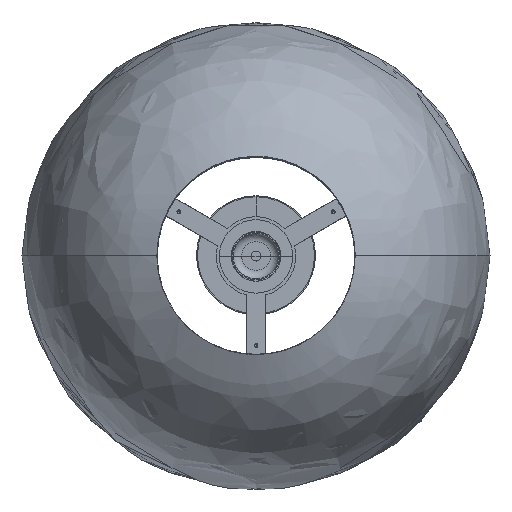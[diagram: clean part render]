
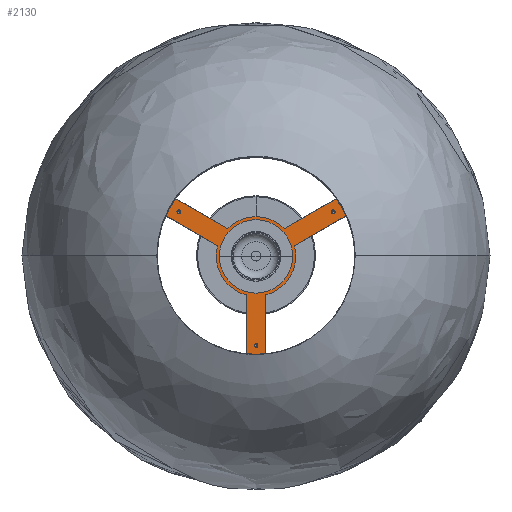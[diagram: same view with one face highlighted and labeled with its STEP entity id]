
A CAD part, top view. The second image highlights one B-rep face of the part: STEP entity #2130.
In plain terms, the highlighted planar face has unit normal (0, 0, 1).
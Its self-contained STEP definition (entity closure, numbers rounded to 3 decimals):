
#43=FACE_BOUND('',#408,.T.);
#44=FACE_BOUND('',#409,.T.);
#45=FACE_BOUND('',#410,.T.);
#46=FACE_BOUND('',#411,.T.);
#149=PLANE('',#2357);
#267=FACE_OUTER_BOUND('',#407,.T.);
#407=EDGE_LOOP('',(#1819,#1820,#1821,#1822,#1823,#1824,#1825,#1826,#1827,
#1828,#1829,#1830,#1831,#1832));
#408=EDGE_LOOP('',(#1833,#1834));
#409=EDGE_LOOP('',(#1835,#1836));
#410=EDGE_LOOP('',(#1837,#1838));
#411=EDGE_LOOP('',(#1839,#1840));
#540=LINE('',#7476,#705);
#543=LINE('',#7481,#708);
#548=LINE('',#7490,#713);
#556=LINE('',#7513,#721);
#559=LINE('',#7522,#724);
#565=LINE('',#7532,#730);
#582=LINE('',#7605,#747);
#585=LINE('',#7609,#750);
#586=LINE('',#7610,#751);
#705=VECTOR('',#2793,304.8);
#708=VECTOR('',#2798,304.8);
#713=VECTOR('',#2805,304.8);
#721=VECTOR('',#2823,304.8);
#724=VECTOR('',#2832,304.8);
#730=VECTOR('',#2840,304.8);
#747=VECTOR('',#2921,304.8);
#750=VECTOR('',#2926,304.8);
#751=VECTOR('',#2927,304.8);
#825=CIRCLE('',#2274,2.);
#827=CIRCLE('',#2277,2.);
#831=CIRCLE('',#2286,2.);
#833=CIRCLE('',#2289,2.);
#837=CIRCLE('',#2298,2.);
#839=CIRCLE('',#2301,2.);
#849=CIRCLE('',#2327,40.);
#850=CIRCLE('',#2329,40.);
#852=CIRCLE('',#2332,40.);
#854=CIRCLE('',#2335,40.);
#857=CIRCLE('',#2339,40.);
#858=CIRCLE('',#2341,25.);
#860=CIRCLE('',#2344,25.);
#976=VERTEX_POINT('',#7390);
#977=VERTEX_POINT('',#7392);
#982=VERTEX_POINT('',#7413);
#983=VERTEX_POINT('',#7415);
#988=VERTEX_POINT('',#7436);
#989=VERTEX_POINT('',#7438);
#998=VERTEX_POINT('',#7474);
#999=VERTEX_POINT('',#7475);
#1000=VERTEX_POINT('',#7480);
#1003=VERTEX_POINT('',#7488);
#1012=VERTEX_POINT('',#7511);
#1013=VERTEX_POINT('',#7512);
#1016=VERTEX_POINT('',#7521);
#1019=VERTEX_POINT('',#7530);
#1021=VERTEX_POINT('',#7536);
#1022=VERTEX_POINT('',#7541);
#1024=VERTEX_POINT('',#7550);
#1027=VERTEX_POINT('',#7558);
#1028=VERTEX_POINT('',#7562);
#1029=VERTEX_POINT('',#7563);
#1042=VERTEX_POINT('',#7603);
#1043=VERTEX_POINT('',#7604);
#1208=EDGE_CURVE('',#977,#976,#825,.T.);
#1211=EDGE_CURVE('',#976,#977,#827,.T.);
#1219=EDGE_CURVE('',#983,#982,#831,.T.);
#1222=EDGE_CURVE('',#982,#983,#833,.T.);
#1230=EDGE_CURVE('',#989,#988,#837,.T.);
#1233=EDGE_CURVE('',#988,#989,#839,.T.);
#1248=EDGE_CURVE('',#998,#999,#540,.T.);
#1251=EDGE_CURVE('',#1000,#998,#543,.T.);
#1256=EDGE_CURVE('',#999,#1003,#548,.T.);
#1266=EDGE_CURVE('',#1012,#1013,#556,.T.);
#1271=EDGE_CURVE('',#1016,#1012,#559,.T.);
#1277=EDGE_CURVE('',#1013,#1019,#565,.T.);
#1281=EDGE_CURVE('',#1021,#1016,#849,.T.);
#1283=EDGE_CURVE('',#1003,#1022,#850,.T.);
#1285=EDGE_CURVE('',#1019,#1000,#852,.T.);
#1287=EDGE_CURVE('',#1024,#1021,#854,.T.);
#1292=EDGE_CURVE('',#1022,#1027,#857,.T.);
#1293=EDGE_CURVE('',#1028,#1029,#858,.T.);
#1297=EDGE_CURVE('',#1029,#1028,#860,.T.);
#1312=EDGE_CURVE('',#1042,#1043,#582,.T.);
#1315=EDGE_CURVE('',#1024,#1043,#585,.T.);
#1316=EDGE_CURVE('',#1042,#1027,#586,.T.);
#1819=ORIENTED_EDGE('',*,*,#1315,.F.);
#1820=ORIENTED_EDGE('',*,*,#1287,.T.);
#1821=ORIENTED_EDGE('',*,*,#1281,.T.);
#1822=ORIENTED_EDGE('',*,*,#1271,.T.);
#1823=ORIENTED_EDGE('',*,*,#1266,.T.);
#1824=ORIENTED_EDGE('',*,*,#1277,.T.);
#1825=ORIENTED_EDGE('',*,*,#1285,.T.);
#1826=ORIENTED_EDGE('',*,*,#1251,.T.);
#1827=ORIENTED_EDGE('',*,*,#1248,.T.);
#1828=ORIENTED_EDGE('',*,*,#1256,.T.);
#1829=ORIENTED_EDGE('',*,*,#1283,.T.);
#1830=ORIENTED_EDGE('',*,*,#1292,.T.);
#1831=ORIENTED_EDGE('',*,*,#1316,.F.);
#1832=ORIENTED_EDGE('',*,*,#1312,.T.);
#1833=ORIENTED_EDGE('',*,*,#1297,.T.);
#1834=ORIENTED_EDGE('',*,*,#1293,.T.);
#1835=ORIENTED_EDGE('',*,*,#1233,.T.);
#1836=ORIENTED_EDGE('',*,*,#1230,.T.);
#1837=ORIENTED_EDGE('',*,*,#1222,.T.);
#1838=ORIENTED_EDGE('',*,*,#1219,.T.);
#1839=ORIENTED_EDGE('',*,*,#1211,.T.);
#1840=ORIENTED_EDGE('',*,*,#1208,.T.);
#2130=ADVANCED_FACE('',(#267,#43,#44,#45,#46),#149,.T.);
#2274=AXIS2_PLACEMENT_3D('',#7393,#2692,#2693);
#2277=AXIS2_PLACEMENT_3D('',#7397,#2699,#2700);
#2286=AXIS2_PLACEMENT_3D('',#7416,#2721,#2722);
#2289=AXIS2_PLACEMENT_3D('',#7420,#2728,#2729);
#2298=AXIS2_PLACEMENT_3D('',#7439,#2750,#2751);
#2301=AXIS2_PLACEMENT_3D('',#7443,#2757,#2758);
#2327=AXIS2_PLACEMENT_3D('',#7539,#2847,#2848);
#2329=AXIS2_PLACEMENT_3D('',#7544,#2852,#2853);
#2332=AXIS2_PLACEMENT_3D('',#7547,#2858,#2859);
#2335=AXIS2_PLACEMENT_3D('',#7551,#2864,#2865);
#2339=AXIS2_PLACEMENT_3D('',#7560,#2874,#2875);
#2341=AXIS2_PLACEMENT_3D('',#7564,#2878,#2879);
#2344=AXIS2_PLACEMENT_3D('',#7571,#2886,#2887);
#2357=AXIS2_PLACEMENT_3D('',#7608,#2924,#2925);
#2692=DIRECTION('center_axis',(0.,0.,-1.));
#2693=DIRECTION('ref_axis',(0.866,-0.5,0.));
#2699=DIRECTION('center_axis',(0.,0.,-1.));
#2700=DIRECTION('ref_axis',(0.866,-0.5,0.));
#2721=DIRECTION('center_axis',(0.,0.,-1.));
#2722=DIRECTION('ref_axis',(-0.866,-0.5,0.));
#2728=DIRECTION('center_axis',(0.,0.,-1.));
#2729=DIRECTION('ref_axis',(-0.866,-0.5,0.));
#2750=DIRECTION('center_axis',(0.,0.,-1.));
#2751=DIRECTION('ref_axis',(0.,1.,0.));
#2757=DIRECTION('center_axis',(0.,0.,-1.));
#2758=DIRECTION('ref_axis',(0.,1.,0.));
#2793=DIRECTION('',(-0.5,-0.866,0.));
#2798=DIRECTION('',(-0.866,0.5,0.));
#2805=DIRECTION('',(0.866,-0.5,0.));
#2823=DIRECTION('',(-0.5,0.866,0.));
#2832=DIRECTION('',(0.866,0.5,0.));
#2840=DIRECTION('',(-0.866,-0.5,0.));
#2847=DIRECTION('center_axis',(0.,0.,1.));
#2848=DIRECTION('ref_axis',(1.,0.,0.));
#2852=DIRECTION('center_axis',(0.,0.,1.));
#2853=DIRECTION('ref_axis',(1.,0.,0.));
#2858=DIRECTION('center_axis',(0.,0.,1.));
#2859=DIRECTION('ref_axis',(1.,0.,0.));
#2864=DIRECTION('center_axis',(0.,0.,1.));
#2865=DIRECTION('ref_axis',(1.,0.,0.));
#2874=DIRECTION('center_axis',(0.,0.,1.));
#2875=DIRECTION('ref_axis',(1.,0.,0.));
#2878=DIRECTION('center_axis',(0.,0.,-1.));
#2879=DIRECTION('ref_axis',(1.,0.,0.));
#2886=DIRECTION('center_axis',(0.,0.,-1.));
#2887=DIRECTION('ref_axis',(1.,0.,0.));
#2921=DIRECTION('',(1.,0.,0.));
#2924=DIRECTION('center_axis',(0.,0.,1.));
#2925=DIRECTION('ref_axis',(-1.,0.,0.));
#2926=DIRECTION('',(0.,-1.,0.));
#2927=DIRECTION('',(0.,1.,0.));
#7390=CARTESIAN_POINT('',(-79.471,45.883,1.5));
#7392=CARTESIAN_POINT('',(-76.007,43.883,1.5));
#7393=CARTESIAN_POINT('Origin',(-77.739,44.883,1.5));
#7397=CARTESIAN_POINT('Origin',(-77.739,44.883,1.5));
#7413=CARTESIAN_POINT('',(79.471,45.883,1.5));
#7415=CARTESIAN_POINT('',(76.007,43.883,1.5));
#7416=CARTESIAN_POINT('Origin',(77.739,44.883,1.5));
#7420=CARTESIAN_POINT('Origin',(77.739,44.883,1.5));
#7436=CARTESIAN_POINT('',(0.,-91.765,1.5));
#7438=CARTESIAN_POINT('',(0.,-87.765,1.5));
#7439=CARTESIAN_POINT('Origin',(0.,-89.765,
1.5));
#7443=CARTESIAN_POINT('Origin',(0.,-89.765,
1.5));
#7474=CARTESIAN_POINT('',(-82.872,59.393,1.5));
#7475=CARTESIAN_POINT('',(-92.872,42.072,1.5));
#7476=CARTESIAN_POINT('',(-82.872,59.393,1.5));
#7480=CARTESIAN_POINT('',(-28.541,28.025,1.5));
#7481=CARTESIAN_POINT('',(-28.541,28.025,1.5));
#7488=CARTESIAN_POINT('',(-38.541,10.705,1.5));
#7490=CARTESIAN_POINT('',(-92.872,42.072,1.5));
#7511=CARTESIAN_POINT('',(92.872,42.072,1.5));
#7512=CARTESIAN_POINT('',(82.872,59.393,1.5));
#7513=CARTESIAN_POINT('',(92.872,42.072,1.5));
#7521=CARTESIAN_POINT('',(38.541,10.705,1.5));
#7522=CARTESIAN_POINT('',(38.541,10.705,1.5));
#7530=CARTESIAN_POINT('',(28.541,28.025,1.5));
#7532=CARTESIAN_POINT('',(82.872,59.393,1.5));
#7536=CARTESIAN_POINT('',(40.,0.,1.5));
#7539=CARTESIAN_POINT('Origin',(0.,0.,1.5));
#7541=CARTESIAN_POINT('',(-40.,0.,1.5));
#7544=CARTESIAN_POINT('Origin',(0.,0.,1.5));
#7547=CARTESIAN_POINT('Origin',(0.,0.,1.5));
#7550=CARTESIAN_POINT('',(10.,-38.73,1.5));
#7551=CARTESIAN_POINT('Origin',(0.,0.,1.5));
#7558=CARTESIAN_POINT('',(-10.,-38.73,1.5));
#7560=CARTESIAN_POINT('Origin',(0.,0.,1.5));
#7562=CARTESIAN_POINT('',(25.,0.,1.5));
#7563=CARTESIAN_POINT('',(-25.,0.,1.5));
#7564=CARTESIAN_POINT('Origin',(0.,0.,1.5));
#7571=CARTESIAN_POINT('Origin',(0.,0.,1.5));
#7603=CARTESIAN_POINT('',(-10.,-101.465,1.5));
#7604=CARTESIAN_POINT('',(10.,-101.465,1.5));
#7605=CARTESIAN_POINT('',(-10.,-101.465,1.5));
#7608=CARTESIAN_POINT('Origin',(10.,-38.73,1.5));
#7609=CARTESIAN_POINT('',(10.,-38.73,1.5));
#7610=CARTESIAN_POINT('',(-10.,-101.465,1.5));
